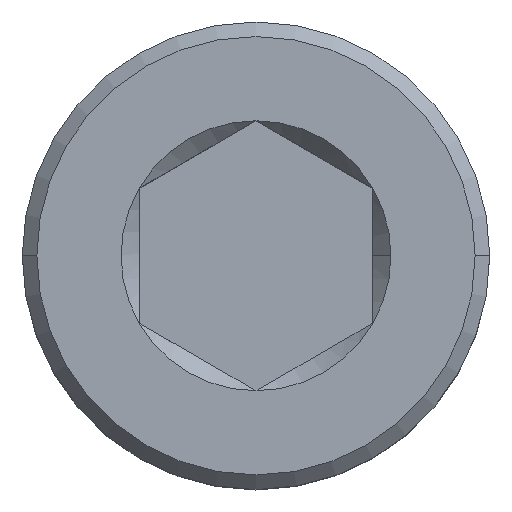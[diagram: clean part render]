
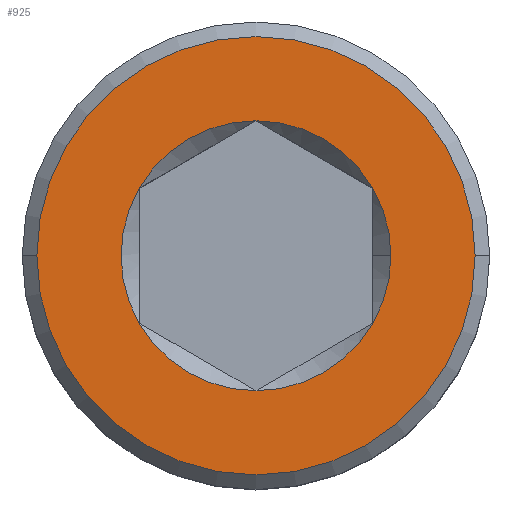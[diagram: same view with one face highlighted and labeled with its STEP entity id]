
A CAD part, top view. The second image highlights one B-rep face of the part: STEP entity #925.
In plain terms, the highlighted planar face has unit normal (0, 0, 1).
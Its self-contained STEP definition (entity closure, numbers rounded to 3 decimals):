
#11 = DIRECTION ( 'NONE',  ( 0., 0., 1. ) ) ;
#135 = DIRECTION ( 'NONE',  ( 1., 0., 0. ) ) ;
#161 = CARTESIAN_POINT ( 'NONE',  ( -4., -2.309, 0. ) ) ;
#236 = DIRECTION ( 'NONE',  ( 1., 0., 0. ) ) ;
#254 = CIRCLE ( 'NONE', #3050, 4.619 ) ;
#382 = CARTESIAN_POINT ( 'NONE',  ( 0., 0., 0. ) ) ;
#464 = ORIENTED_EDGE ( 'NONE', *, *, #2388, .F. ) ;
#535 = ORIENTED_EDGE ( 'NONE', *, *, #1988, .F. ) ;
#561 = PLANE ( 'NONE',  #4054 ) ;
#639 = CARTESIAN_POINT ( 'NONE',  ( -7.5, 0., 0. ) ) ;
#666 = CARTESIAN_POINT ( 'NONE',  ( 0., 0., 0. ) ) ;
#681 = EDGE_CURVE ( 'NONE', #4941, #2144, #3881, .T. ) ;
#753 = AXIS2_PLACEMENT_3D ( 'NONE', #4057, #2005, #4003 ) ;
#819 = CIRCLE ( 'NONE', #3710, 7.5 ) ;
#854 = EDGE_CURVE ( 'NONE', #975, #938, #819, .T. ) ;
#911 = EDGE_CURVE ( 'NONE', #2144, #2976, #997, .T. ) ;
#925 = ADVANCED_FACE ( 'NONE', ( #1436, #4836 ), #561, .T. ) ;
#938 = VERTEX_POINT ( 'NONE', #3553 ) ;
#971 = VERTEX_POINT ( 'NONE', #161 ) ;
#975 = VERTEX_POINT ( 'NONE', #639 ) ;
#988 = EDGE_CURVE ( 'NONE', #971, #2170, #1786, .T. ) ;
#997 = CIRCLE ( 'NONE', #3101, 4.619 ) ;
#1253 = AXIS2_PLACEMENT_3D ( 'NONE', #4510, #2070, #2950 ) ;
#1360 = CARTESIAN_POINT ( 'NONE',  ( 4.619, 0., 0. ) ) ;
#1436 = FACE_OUTER_BOUND ( 'NONE', #4660, .T. ) ;
#1447 = EDGE_CURVE ( 'NONE', #938, #975, #5369, .T. ) ;
#1464 = VERTEX_POINT ( 'NONE', #3437 ) ;
#1579 = CIRCLE ( 'NONE', #4909, 4.619 ) ;
#1668 = CARTESIAN_POINT ( 'NONE',  ( 4., -2.309, 0. ) ) ;
#1743 = ORIENTED_EDGE ( 'NONE', *, *, #1447, .T. ) ;
#1744 = CARTESIAN_POINT ( 'NONE',  ( 0., -4.619, 0. ) ) ;
#1775 = ORIENTED_EDGE ( 'NONE', *, *, #988, .F. ) ;
#1786 = CIRCLE ( 'NONE', #4851, 4.619 ) ;
#1847 = EDGE_LOOP ( 'NONE', ( #464, #4866, #3106, #2929, #1775, #3768, #535 ) ) ;
#1900 = CARTESIAN_POINT ( 'NONE',  ( 0., 0., 0. ) ) ;
#1988 = EDGE_CURVE ( 'NONE', #1464, #4387, #2915, .T. ) ;
#2005 = DIRECTION ( 'NONE',  ( 0., 0., 1. ) ) ;
#2063 = CARTESIAN_POINT ( 'NONE',  ( 0., 0., 0. ) ) ;
#2070 = DIRECTION ( 'NONE',  ( 0., 0., 1. ) ) ;
#2144 = VERTEX_POINT ( 'NONE', #1360 ) ;
#2170 = VERTEX_POINT ( 'NONE', #1744 ) ;
#2300 = AXIS2_PLACEMENT_3D ( 'NONE', #2323, #3995, #135 ) ;
#2323 = CARTESIAN_POINT ( 'NONE',  ( 0., 0., 0. ) ) ;
#2388 = EDGE_CURVE ( 'NONE', #2976, #1464, #1579, .T. ) ;
#2509 = DIRECTION ( 'NONE',  ( 1., 0., 0. ) ) ;
#2591 = CIRCLE ( 'NONE', #753, 4.619 ) ;
#2915 = CIRCLE ( 'NONE', #1253, 4.619 ) ;
#2929 = ORIENTED_EDGE ( 'NONE', *, *, #4966, .F. ) ;
#2950 = DIRECTION ( 'NONE',  ( 1., 0., 0. ) ) ;
#2976 = VERTEX_POINT ( 'NONE', #3653 ) ;
#3050 = AXIS2_PLACEMENT_3D ( 'NONE', #382, #3341, #2509 ) ;
#3058 = DIRECTION ( 'NONE',  ( 1., 0., 0. ) ) ;
#3101 = AXIS2_PLACEMENT_3D ( 'NONE', #1900, #5216, #3058 ) ;
#3106 = ORIENTED_EDGE ( 'NONE', *, *, #681, .F. ) ;
#3164 = CARTESIAN_POINT ( 'NONE',  ( 0., 0., 0. ) ) ;
#3341 = DIRECTION ( 'NONE',  ( 0., 0., 1. ) ) ;
#3437 = CARTESIAN_POINT ( 'NONE',  ( 0., 4.619, 0. ) ) ;
#3502 = EDGE_CURVE ( 'NONE', #4387, #971, #2591, .T. ) ;
#3553 = CARTESIAN_POINT ( 'NONE',  ( 7.5, 0., 0. ) ) ;
#3607 = DIRECTION ( 'NONE',  ( 0., 0., 1. ) ) ;
#3653 = CARTESIAN_POINT ( 'NONE',  ( 4., 2.309, 0. ) ) ;
#3710 = AXIS2_PLACEMENT_3D ( 'NONE', #5239, #4367, #236 ) ;
#3714 = DIRECTION ( 'NONE',  ( 0., 0., 1. ) ) ;
#3761 = CARTESIAN_POINT ( 'NONE',  ( 0., 0., 0. ) ) ;
#3768 = ORIENTED_EDGE ( 'NONE', *, *, #3502, .F. ) ;
#3881 = CIRCLE ( 'NONE', #2300, 4.619 ) ;
#3995 = DIRECTION ( 'NONE',  ( 0., 0., 1. ) ) ;
#4003 = DIRECTION ( 'NONE',  ( 1., 0., 0. ) ) ;
#4008 = DIRECTION ( 'NONE',  ( 0., 0., 1. ) ) ;
#4054 = AXIS2_PLACEMENT_3D ( 'NONE', #666, #4008, #4780 ) ;
#4057 = CARTESIAN_POINT ( 'NONE',  ( 0., 0., 0. ) ) ;
#4367 = DIRECTION ( 'NONE',  ( 0., 0., 1. ) ) ;
#4387 = VERTEX_POINT ( 'NONE', #4864 ) ;
#4510 = CARTESIAN_POINT ( 'NONE',  ( 0., 0., 0. ) ) ;
#4660 = EDGE_LOOP ( 'NONE', ( #4834, #1743 ) ) ;
#4688 = DIRECTION ( 'NONE',  ( 1., 0., 0. ) ) ;
#4723 = DIRECTION ( 'NONE',  ( 1., 0., 0. ) ) ;
#4780 = DIRECTION ( 'NONE',  ( 1., 0., 0. ) ) ;
#4834 = ORIENTED_EDGE ( 'NONE', *, *, #854, .T. ) ;
#4836 = FACE_BOUND ( 'NONE', #1847, .T. ) ;
#4851 = AXIS2_PLACEMENT_3D ( 'NONE', #3164, #3607, #4723 ) ;
#4864 = CARTESIAN_POINT ( 'NONE',  ( -4., 2.309, 0. ) ) ;
#4866 = ORIENTED_EDGE ( 'NONE', *, *, #911, .F. ) ;
#4909 = AXIS2_PLACEMENT_3D ( 'NONE', #2063, #3714, #4917 ) ;
#4917 = DIRECTION ( 'NONE',  ( 1., 0., 0. ) ) ;
#4941 = VERTEX_POINT ( 'NONE', #1668 ) ;
#4966 = EDGE_CURVE ( 'NONE', #2170, #4941, #254, .T. ) ;
#5110 = AXIS2_PLACEMENT_3D ( 'NONE', #3761, #11, #4688 ) ;
#5216 = DIRECTION ( 'NONE',  ( 0., 0., 1. ) ) ;
#5239 = CARTESIAN_POINT ( 'NONE',  ( 0., 0., 0. ) ) ;
#5369 = CIRCLE ( 'NONE', #5110, 7.5 ) ;
